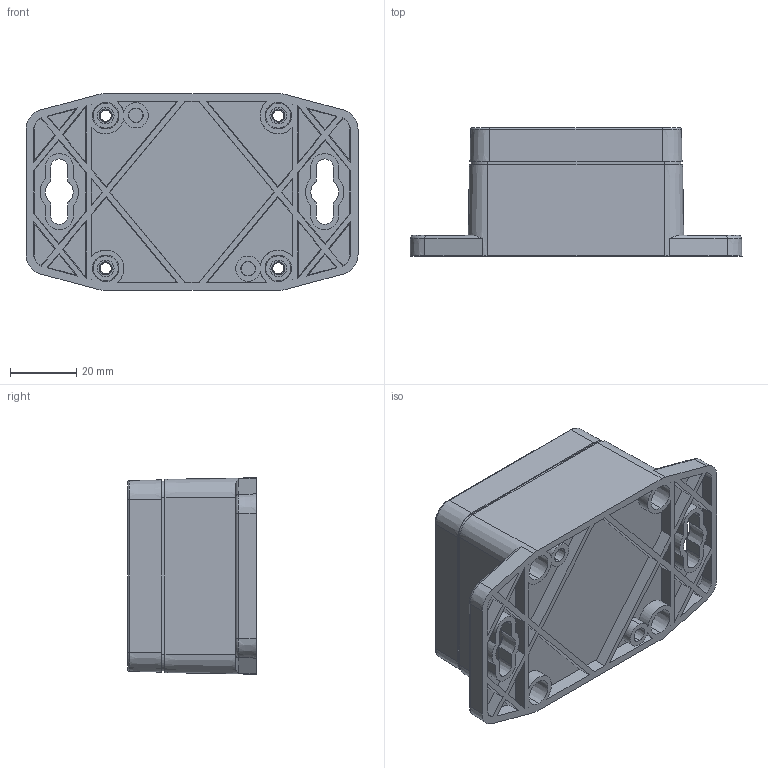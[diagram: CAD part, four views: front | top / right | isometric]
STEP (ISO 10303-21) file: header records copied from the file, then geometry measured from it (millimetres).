
FILE_DESCRIPTION (( 'STEP AP203' ), '1' );
FILE_NAME ('PF204.STEP', '2020-02-01T06:24:04', ( '' ), ( '' ), 'SwSTEP 2.0', 'SolidWorks 2020', '' );
FILE_SCHEMA (( 'CONFIG_CONTROL_DESIGN' ));
Length unit declared in the file: millimetre
Products named in the file (4): PF204
Assembly tree (3 placements, depth 2):
  PF204
    PF204
    PF204
    PF204
Bounding box: 100.2 x 38.7 x 59.29 mm (x, y, z)
Volume: 60558.4 mm3; surface area: 53813.4 mm2
Topology: 7 solids, 7 shells, 1080 faces, 2875 edges, 1856 vertices
Faces by surface type: plane 389, cylinder 282, bspline 262, cone 129, torus 18
Entity records: 37761 total; most frequent: CARTESIAN_POINT 11981, ORIENTED_EDGE 5750, DIRECTION 4723, EDGE_CURVE 2875, VERTEX_POINT 1856, AXIS2_PLACEMENT_3D 1730, VECTOR 1263, LINE 1263
